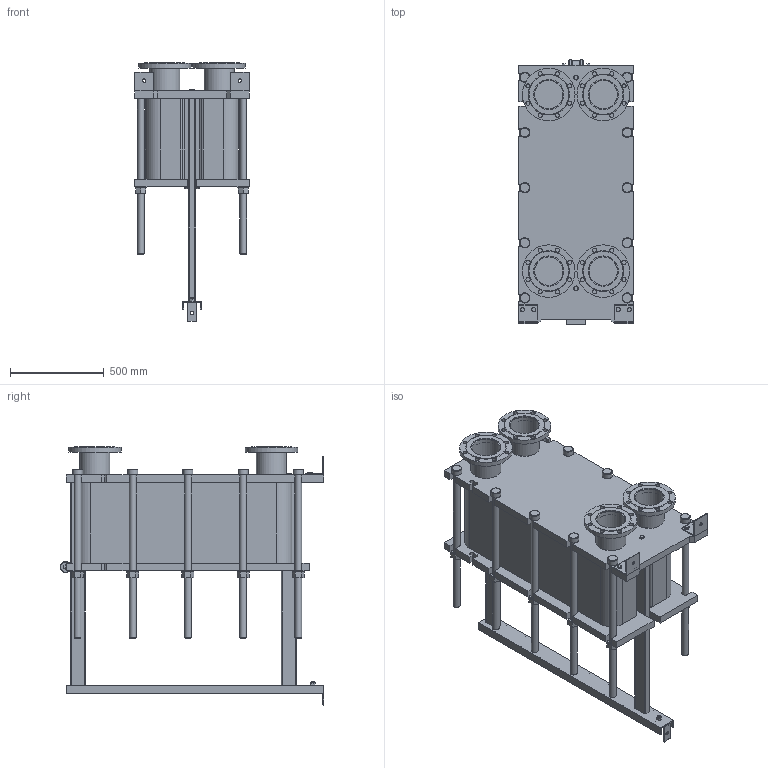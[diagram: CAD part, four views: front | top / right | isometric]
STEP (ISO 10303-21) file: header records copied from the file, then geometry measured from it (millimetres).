
FILE_DESCRIPTION(/* description */ (''),/* implementation_level */ '2;1');
FILE_NAME(/* name */ 'C:\Users\zhuro\Desktop\ENCO\TO\ЭН-041\ЭН-0,5-041-125-1.stp',/* time_stamp */ '2022-06-06T10:59:57+03:00',/* author */ ('zhuro'),/* organization */ (''),/* preprocessor_version */ 'ST-DEVELOPER v18.1',/* originating_system */ 'Autodesk Inventor 2022',/* authorisation */ '');
FILE_SCHEMA (('AUTOMOTIVE_DESIGN { 1 0 10303 214 3 1 1 }'));
Length unit declared in the file: millimetre
Products named in the file (1): ЭН-0,5-041-125-1
Bounding box: 610 x 1406.5 x 1377.5 mm (x, y, z)
Volume: 324781042.3 mm3; surface area: 9575740.6 mm2
Topology: 52 solids, 52 shells, 711 faces, 1696 edges, 1094 vertices
Faces by surface type: plane 487, cylinder 177, cone 41, torus 6
Full cylindrical faces by diameter (mm): 8 x4, 10 x2, 16 x8, 18 x3, 22 x32, 36 x24, 50 x1, 54 x10, 60 x12, 151 x4, 161 x8, 280 x4
Entity records: 22667 total; most frequent: CARTESIAN_POINT 5230, DIRECTION 3644, ORIENTED_EDGE 3392, EDGE_CURVE 1696, AXIS2_PLACEMENT_3D 1272, LINE 1100, VECTOR 1100, VERTEX_POINT 1094
